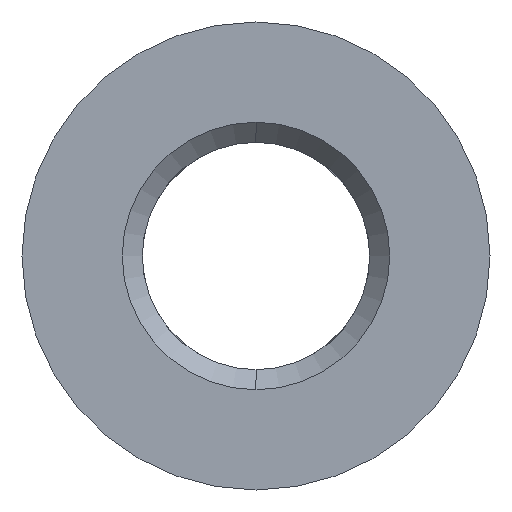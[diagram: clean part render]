
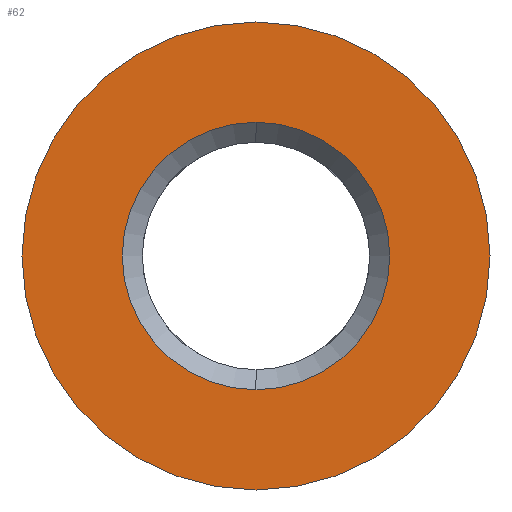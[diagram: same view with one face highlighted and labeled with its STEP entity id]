
A CAD part, left-side view. The second image highlights one B-rep face of the part: STEP entity #62.
In plain terms, the highlighted planar face has unit normal (-1, 0, 0).
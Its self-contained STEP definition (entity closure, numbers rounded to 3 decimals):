
#58 = VERTEX_POINT ( 'NONE', #813 ) ;
#62 = ADVANCED_FACE ( 'NONE', ( #197, #882 ), #545, .T. ) ;
#83 = VERTEX_POINT ( 'NONE', #485 ) ;
#92 = AXIS2_PLACEMENT_3D ( 'NONE', #763, #334, #624 ) ;
#112 = AXIS2_PLACEMENT_3D ( 'NONE', #555, #831, #347 ) ;
#137 = DIRECTION ( 'NONE',  ( 1., 0., 0. ) ) ;
#139 = CIRCLE ( 'NONE', #421, 4. ) ;
#153 = AXIS2_PLACEMENT_3D ( 'NONE', #450, #227, #574 ) ;
#162 = CIRCLE ( 'NONE', #361, 4. ) ;
#165 = EDGE_CURVE ( 'NONE', #58, #326, #162, .T. ) ;
#189 = ORIENTED_EDGE ( 'NONE', *, *, #165, .T. ) ;
#197 = FACE_BOUND ( 'NONE', #569, .T. ) ;
#214 = CARTESIAN_POINT ( 'NONE',  ( -16.32, 0., 0. ) ) ;
#218 = CIRCLE ( 'NONE', #153, 7. ) ;
#220 = DIRECTION ( 'NONE',  ( 1., 0., 0. ) ) ;
#227 = DIRECTION ( 'NONE',  ( 1., 0., 0. ) ) ;
#233 = CIRCLE ( 'NONE', #112, 7. ) ;
#255 = EDGE_LOOP ( 'NONE', ( #595, #317 ) ) ;
#317 = ORIENTED_EDGE ( 'NONE', *, *, #800, .F. ) ;
#326 = VERTEX_POINT ( 'NONE', #597 ) ;
#334 = DIRECTION ( 'NONE',  ( -1., 0., 0. ) ) ;
#347 = DIRECTION ( 'NONE',  ( 0., 0., -1. ) ) ;
#361 = AXIS2_PLACEMENT_3D ( 'NONE', #214, #220, #843 ) ;
#384 = ORIENTED_EDGE ( 'NONE', *, *, #479, .T. ) ;
#421 = AXIS2_PLACEMENT_3D ( 'NONE', #689, #137, #616 ) ;
#450 = CARTESIAN_POINT ( 'NONE',  ( -16.32, 0., 0. ) ) ;
#479 = EDGE_CURVE ( 'NONE', #326, #58, #139, .T. ) ;
#485 = CARTESIAN_POINT ( 'NONE',  ( -16.32, 0., 7. ) ) ;
#545 = PLANE ( 'NONE',  #92 ) ;
#555 = CARTESIAN_POINT ( 'NONE',  ( -16.32, 0., 0. ) ) ;
#569 = EDGE_LOOP ( 'NONE', ( #384, #189 ) ) ;
#574 = DIRECTION ( 'NONE',  ( 0., 0., -1. ) ) ;
#595 = ORIENTED_EDGE ( 'NONE', *, *, #742, .F. ) ;
#597 = CARTESIAN_POINT ( 'NONE',  ( -16.32, 0., 4. ) ) ;
#616 = DIRECTION ( 'NONE',  ( 0., 0., 1. ) ) ;
#624 = DIRECTION ( 'NONE',  ( 0., 0., 1. ) ) ;
#689 = CARTESIAN_POINT ( 'NONE',  ( -16.32, 0., 0. ) ) ;
#742 = EDGE_CURVE ( 'NONE', #786, #83, #233, .T. ) ;
#763 = CARTESIAN_POINT ( 'NONE',  ( -16.32, 3.4, 0. ) ) ;
#786 = VERTEX_POINT ( 'NONE', #850 ) ;
#800 = EDGE_CURVE ( 'NONE', #83, #786, #218, .T. ) ;
#813 = CARTESIAN_POINT ( 'NONE',  ( -16.32, 0., -4. ) ) ;
#831 = DIRECTION ( 'NONE',  ( 1., 0., 0. ) ) ;
#843 = DIRECTION ( 'NONE',  ( 0., 0., 1. ) ) ;
#850 = CARTESIAN_POINT ( 'NONE',  ( -16.32, 0., -7. ) ) ;
#882 = FACE_OUTER_BOUND ( 'NONE', #255, .T. ) ;
